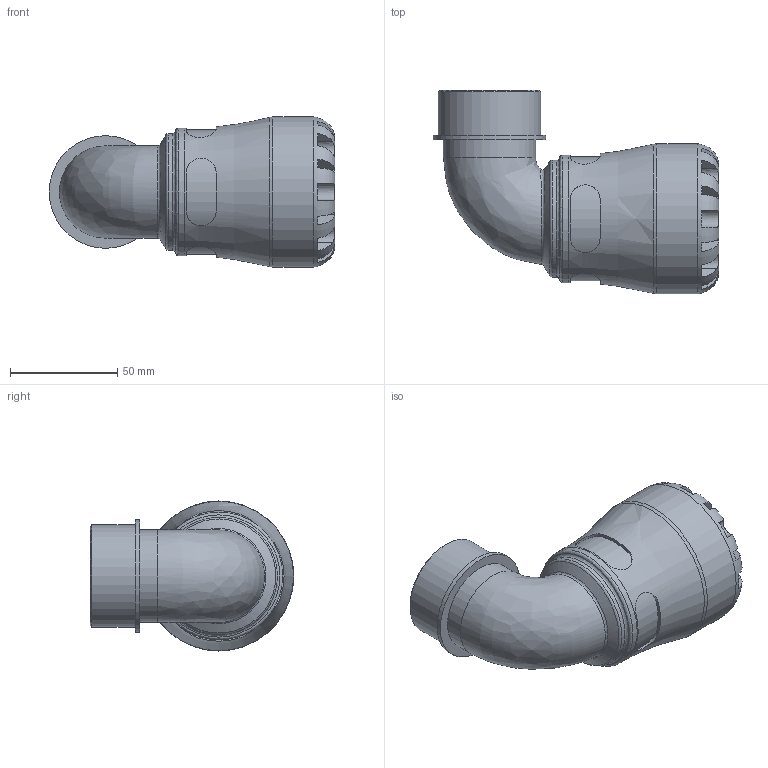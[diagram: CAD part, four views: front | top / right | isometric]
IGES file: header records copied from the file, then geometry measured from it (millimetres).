
Global section: file name: 108500040015_198500040015.ipt; native system: Autodesk Inventor 2015; preprocessor: unknown; author: KIM; date: 20170122.115003; units: millimetre
Bounding box: 133.29 x 95 x 70 mm (x, y, z)
Volume: 209340.8 mm3; surface area: 51401.6 mm2
Topology: 1 solids, 1 shells, 110 faces, 280 edges, 176 vertices
Faces by surface type: plane 61, revolution 26, cylinder 18, bspline 4, cone 1
Full cylindrical faces by diameter (mm): 43.023 x1, 47.803 x1, 52.583 x1, 54.6 x1, 59.5 x1, 70 x1
